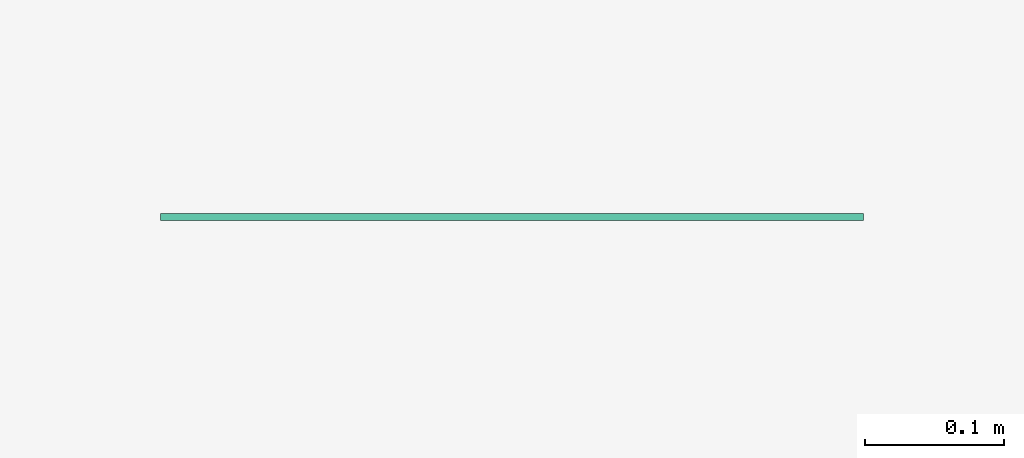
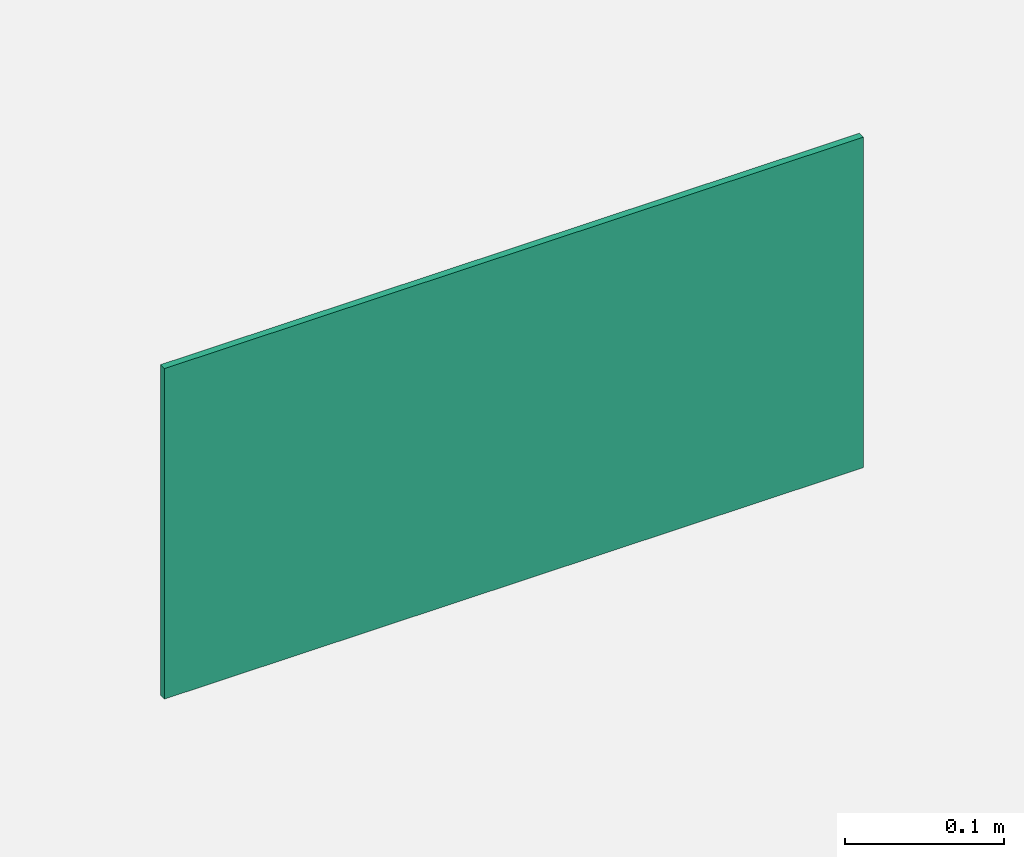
# One storey, part 6 of 6: 1 flow terminal.
"""IFC2X3 building model written with IfcOpenShell, lengths in metres."""

from ifc_helpers import new_model, entity, si_unit, converted_unit, derived_unit, direction, frame, frame_2d, origin, place, context, subcontext, project, spatial, polyline, circle_curve, parameter, trimmed, segment, composite_curve, circle, outline, extrude, source, transform, mapped, material, material_list, type_object, type_shapes, element, save


model = new_model("IFC2X3")

# Units and contexts
model_context = context("Model", 3, precision=1e-05, world=origin(), true_north=direction((6.12303176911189e-17, 1.0)))
body_context = subcontext(model_context, "Body", "Model", "MODEL_VIEW")
ifc_project = project(units=[si_unit("LENGTHUNIT", "METRE"), si_unit("AREAUNIT", "SQUARE_METRE"), si_unit("VOLUMEUNIT", "CUBIC_METRE"), converted_unit("PLANEANGLEUNIT", "DEGREE", entity("IfcRatioMeasure", 0.0174532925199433), si_unit("PLANEANGLEUNIT", "RADIAN"), dimensions=[0, 0, 0, 0, 0, 0, 0]), si_unit("MASSUNIT", "GRAM", prefix="KILO"), derived_unit("MASSDENSITYUNIT", [(si_unit("MASSUNIT", "GRAM", prefix="KILO"), 1), (si_unit("LENGTHUNIT", "METRE"), -3)]), derived_unit("MOMENTOFINERTIAUNIT", [(si_unit("LENGTHUNIT", "METRE"), 4)]), si_unit("TIMEUNIT", "SECOND"), si_unit("FREQUENCYUNIT", "HERTZ"), si_unit("THERMODYNAMICTEMPERATUREUNIT", "DEGREE_CELSIUS"), derived_unit("THERMALTRANSMITTANCEUNIT", [(si_unit("MASSUNIT", "GRAM", prefix="KILO"), 1), (si_unit("THERMODYNAMICTEMPERATUREUNIT", "KELVIN"), -1), (si_unit("TIMEUNIT", "SECOND"), -3)]), derived_unit("VOLUMETRICFLOWRATEUNIT", [(si_unit("LENGTHUNIT", "METRE"), 3), (si_unit("TIMEUNIT", "SECOND"), -1)]), si_unit("ELECTRICCURRENTUNIT", "AMPERE"), si_unit("ELECTRICVOLTAGEUNIT", "VOLT"), si_unit("POWERUNIT", "WATT"), si_unit("FORCEUNIT", "NEWTON", prefix="KILO"), si_unit("ILLUMINANCEUNIT", "LUX"), si_unit("LUMINOUSFLUXUNIT", "LUMEN"), si_unit("LUMINOUSINTENSITYUNIT", "CANDELA"), derived_unit("USERDEFINED", [(si_unit("MASSUNIT", "GRAM", prefix="KILO"), -1), (si_unit("LENGTHUNIT", "METRE"), -2), (si_unit("TIMEUNIT", "SECOND"), 3), (si_unit("LUMINOUSFLUXUNIT", "LUMEN"), 1)]), derived_unit("LINEARVELOCITYUNIT", [(si_unit("LENGTHUNIT", "METRE"), 1), (si_unit("TIMEUNIT", "SECOND"), -1)]), si_unit("PRESSUREUNIT", "PASCAL"), derived_unit("USERDEFINED", [(si_unit("LENGTHUNIT", "METRE"), -2), (si_unit("MASSUNIT", "GRAM", prefix="KILO"), 1), (si_unit("TIMEUNIT", "SECOND"), -2)]), derived_unit("LINEARFORCEUNIT", [(si_unit("MASSUNIT", "GRAM", prefix="KILO"), 1), (si_unit("LENGTHUNIT", "METRE"), 1), (si_unit("TIMEUNIT", "SECOND"), -2), (si_unit("LENGTHUNIT", "METRE"), -1)]), derived_unit("PLANARFORCEUNIT", [(si_unit("MASSUNIT", "GRAM", prefix="KILO"), 1), (si_unit("LENGTHUNIT", "METRE"), 1), (si_unit("TIMEUNIT", "SECOND"), -2), (si_unit("LENGTHUNIT", "METRE"), -2)])], contexts=[model_context])

# Site, building, storey
site_placement = place(None, origin())
site = spatial("IfcSite", under=ifc_project, at=site_placement, Name="Default", CompositionType="ELEMENT")
building_placement = place(site_placement, origin())
building = spatial("IfcBuilding", under=site, at=building_placement, Name="C.L. MONSENHOR ANTÔNIO SAMPAIO", CompositionType="ELEMENT")
storey_placement = place(building_placement, frame((0.0, 0.0, 3.42)))
storey = spatial("IfcBuildingStorey", under=building, at=storey_placement, Name="Planta Baixa - Incêndio - Pav. Sup.", CompositionType="ELEMENT", Elevation=3.42)

# Flow terminal
ifc_material_1 = material(Name="Branco")
ifc_material_2 = material(Name="VERDE")
ifc_material_list = material_list([ifc_material_1, ifc_material_2])
distribution_element_type = type_object("IfcDistributionElementType", Name="S2:10 metros", material=ifc_material_1)
shared_shape = source(origin(), body_context, "Body", "SweptSolid", [
    extrude(outline(polyline([(-0.12748118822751, 0.0610696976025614), (-0.12748118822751, -0.0766837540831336), (-0.0524811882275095, -0.0766837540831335), (-0.0524811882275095, -0.0586375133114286), (-0.0754210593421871, -0.0425748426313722), (-0.0838734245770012, -0.0244486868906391), (-0.0838734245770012, 0.0305513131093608), (-0.0465667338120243, 0.0557149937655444), (-0.0359601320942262, 0.0451083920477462), (-0.0649764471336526, 0.02553664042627), (-0.0649764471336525, 0.00553664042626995), (-0.0287241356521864, 0.022441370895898), (0.0135955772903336, 0.0261438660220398), (0.0155685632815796, 0.0637906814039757), (0.0343450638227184, 0.0825671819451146), (0.0366135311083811, 0.0176067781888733), (0.0260069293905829, 0.00700017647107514), (-0.00370111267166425, 0.00282498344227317), (-0.00109649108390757, -0.00276064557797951), (0.0690217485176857, -0.0369595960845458), (0.0690217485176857, -0.0633954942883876), (-0.0208576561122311, -0.0195583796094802), (-0.0294894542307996, -0.0195583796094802), (-0.0512605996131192, -0.0348026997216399), (-0.029319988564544, -0.0552626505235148), (-0.029319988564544, -0.0766837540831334), (0.070680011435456, -0.0766837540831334), (0.084822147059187, -0.0625416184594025), (0.0848221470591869, -0.0462279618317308), (0.0717118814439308, -0.0572287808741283), (0.0717118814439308, -0.0310842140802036), (0.0848221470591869, -0.0179739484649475), (0.0848221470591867, 0.0744479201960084), (0.0714395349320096, 0.0595850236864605), (0.0393589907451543, 0.0595850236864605), (0.0393589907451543, 0.0895850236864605), (0.0340999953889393, 0.0895850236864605), (0.00751881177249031, 0.0610696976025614), (-0.12748118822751, 0.0610696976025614)]), holes=[composite_curve([segment(trimmed(circle_curve(frame_2d((-0.103271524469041, -0.0324099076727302), x_axis=(0.0, -1.0)), 0.0177066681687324), [parameter(6.61555373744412e-13)], [parameter(180.0)], True, "PARAMETER"), False, "CONTINUOUS"), segment(trimmed(circle_curve(frame_2d((-0.103271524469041, -0.0324099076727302), x_axis=(0.0, -1.0)), 0.0177066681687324), [parameter(180.0)], [parameter(0.0)], True, "PARAMETER"), False, "CONTINUOUS")], self_intersect=False)]), frame((0.135804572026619, -0.005, 0.100036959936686), z_axis=(0.0, -1.0, 0.0), x_axis=(0.0, 0.0, -1.0)), (0.0, 0.0, -1.0), 0.005),
    extrude(outline(polyline([(-0.0156689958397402, -0.0893393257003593), (0.0156689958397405, -0.0893393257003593), (0.0156689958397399, 0.0256606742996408), (0.0545598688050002, -0.0132301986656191), (0.0545598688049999, 0.0317698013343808), (0.0, 0.0902780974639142), (-0.0545598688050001, 0.0317698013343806), (-0.0545598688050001, -0.0132301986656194), (-0.01566899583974, 0.0256606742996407), (-0.0156689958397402, -0.0893393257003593)])), frame((-0.12865825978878, -0.005, 0.12724469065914), z_axis=(0.0, 1.0, 0.0), x_axis=(0.0, 0.0, -1.0)), (0.0, 0.0, 1.0), 0.005),
    extrude(outline(polyline([(-0.126499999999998, -0.253), (0.1265, -0.253), (0.126499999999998, 0.253), (-0.1265, 0.252999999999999), (-0.126499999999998, -0.253)]), holes=[polyline([(0.0164136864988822, -0.154318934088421), (0.0553045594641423, -0.11542806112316), (0.0553045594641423, -0.16042806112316), (0.000744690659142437, -0.218936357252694), (-0.0538151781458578, -0.160428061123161), (-0.0538151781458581, -0.115428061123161), (-0.0149243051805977, -0.154318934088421), (-0.0149243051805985, -0.0393189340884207), (0.0164136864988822, -0.0393189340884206), (0.0164136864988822, -0.154318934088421)]), polyline([(0.101018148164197, 0.19687426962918), (0.101018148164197, 0.0591208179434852), (0.0260181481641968, 0.0591208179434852), (0.0260181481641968, 0.0771670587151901), (0.0489580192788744, 0.0932297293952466), (0.0574103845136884, 0.11135588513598), (0.0574103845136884, 0.16635588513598), (0.0201036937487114, 0.191519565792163), (0.00949709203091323, 0.180912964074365), (0.0385134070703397, 0.161341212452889), (0.0385134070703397, 0.141341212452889), (0.00226109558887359, 0.158245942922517), (-0.0400586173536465, 0.161948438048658), (-0.0420316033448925, 0.199595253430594), (-0.0608081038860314, 0.218371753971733), (-0.063076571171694, 0.153411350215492), (-0.0524699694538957, 0.142804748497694), (-0.0227619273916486, 0.138629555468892), (-0.0253665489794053, 0.133043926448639), (-0.0954847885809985, 0.0988449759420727), (-0.0954847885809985, 0.0724090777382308), (-0.00560538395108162, 0.116246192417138), (0.0030264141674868, 0.116246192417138), (0.0247975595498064, 0.101001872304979), (0.00285694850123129, 0.0805419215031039), (0.00285694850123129, 0.0591208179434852), (-0.0971430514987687, 0.059120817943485), (-0.1112851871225, 0.0732629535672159), (-0.1112851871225, 0.0895766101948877), (-0.0981749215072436, 0.0785757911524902), (-0.0981749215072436, 0.104720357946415), (-0.1112851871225, 0.117830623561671), (-0.1112851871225, 0.210252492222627), (-0.0979025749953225, 0.195389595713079), (-0.0658220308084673, 0.195389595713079), (-0.0658220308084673, 0.225389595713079), (-0.0605630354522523, 0.225389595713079), (-0.0339818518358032, 0.19687426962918), (0.101018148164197, 0.19687426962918)])]), frame((0.0, -0.005, 0.126499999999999), z_axis=(0.0, 1.0, 0.0), x_axis=(0.0, 0.0, 1.0)), (0.0, 0.0, 1.0), 0.005),
    extrude(circle(Radius=0.0177066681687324, at=frame_2d((0.0, -1.01518793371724e-16), x_axis=(1.0, 0.0))), frame((0.103394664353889, -0.005, 0.203308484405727), z_axis=(0.0, 1.0, 0.0), x_axis=(-1.0, 0.0, 0.0)), (0.0, 0.0, 1.0), 0.005),
])
type_shapes(distribution_element_type, [shared_shape])
flow_terminal_placement = place(storey_placement, frame((27.6062529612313, 32.9723216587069, 1.8)))
element("IfcFlowTerminal", 1, at=flow_terminal_placement, inside=storey, type_object=distribution_element_type, material=ifc_material_list, Name="S2:10 metros", ObjectType="S2:10 metros", context=body_context, shape_type="MappedRepresentation", body=[
    mapped(shared_shape, transform((0.0, 0.0, 0.0), scale=1.0)),
])

save(model, "model.ifc")
